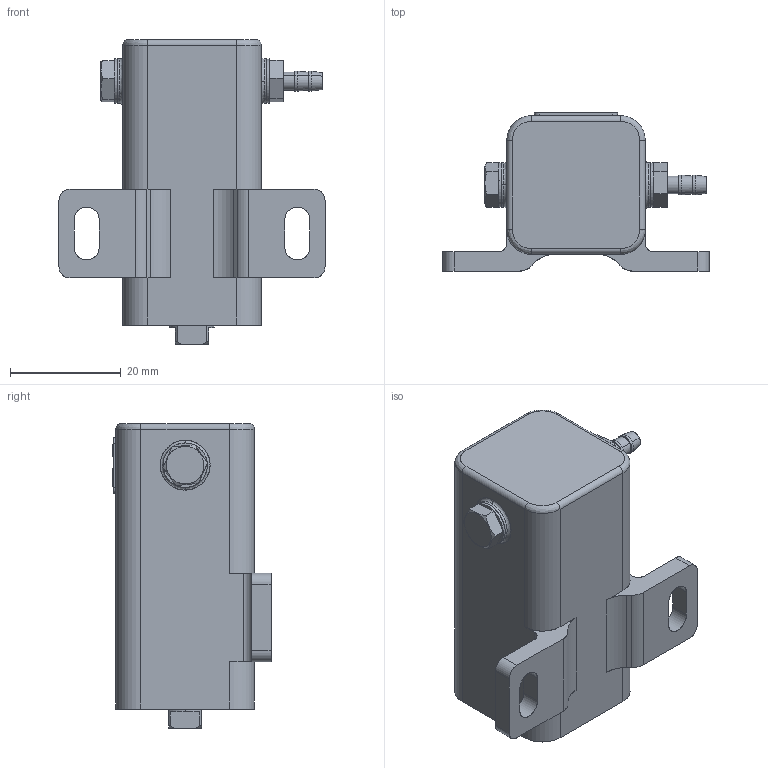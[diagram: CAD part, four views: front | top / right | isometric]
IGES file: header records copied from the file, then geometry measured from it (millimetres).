
Start section: SolidWorks IGES file using analytic representation for surfaces
Bounding box: 48 x 28.52 x 55 mm (x, y, z)
Surface area: 9982.9 mm2 (no closed solid volume)
Topology: 0 solids, 0 shells, 423 faces, 6321 edges, 6321 vertices
Faces by surface type: bspline 253, revolution 170
